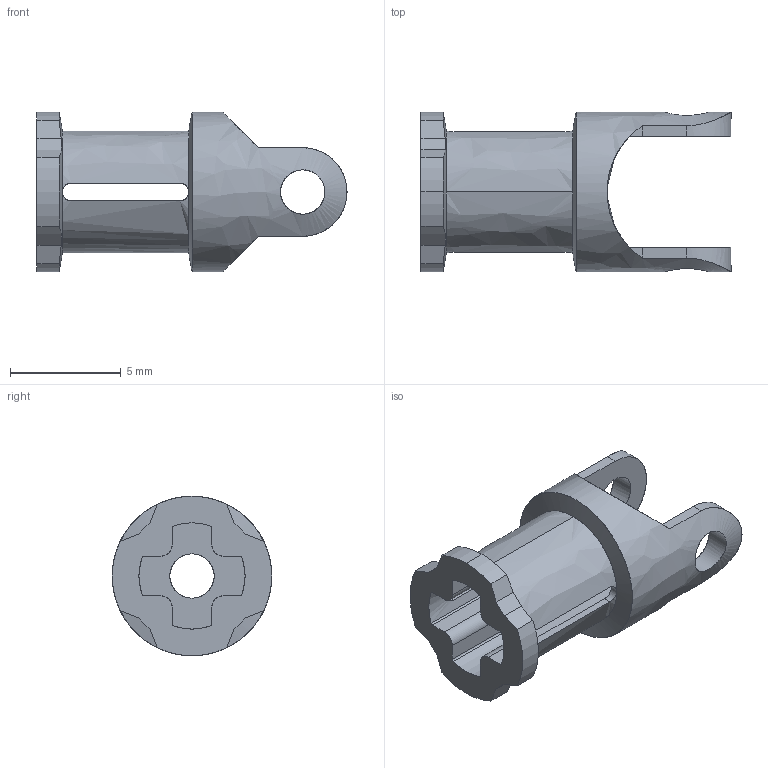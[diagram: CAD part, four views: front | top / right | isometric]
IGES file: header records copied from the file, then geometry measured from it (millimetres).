
Start section: C
Global section: file name: ClGray_4525904_a)_AVV.iges; native system: By Siemens PLM Incorporated; preprocessor: XPlus GENERIC/IGES 26.1.183; author: Author; organization: Title; date: 20250721.235535; units: millimetre
Bounding box: 14 x 7.2 x 7.2 mm (x, y, z)
Surface area: 482.3 mm2 (no closed solid volume)
Topology: 0 solids, 0 shells, 75 faces, 432 edges, 432 vertices
Faces by surface type: bspline 75
